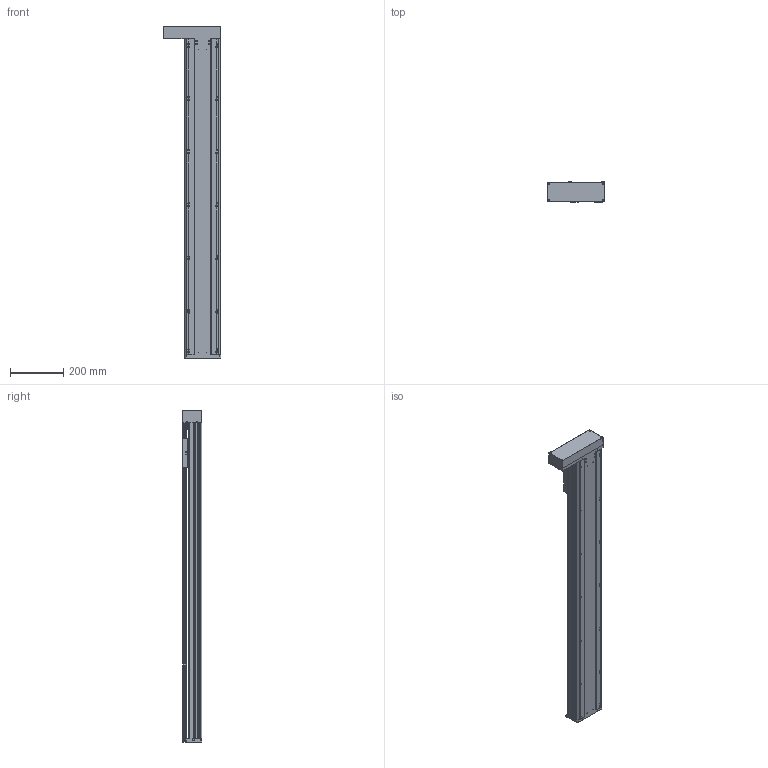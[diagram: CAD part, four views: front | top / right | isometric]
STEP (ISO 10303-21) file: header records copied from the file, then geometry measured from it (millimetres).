
FILE_DESCRIPTION(/* description */ (''),/* implementation_level */ '2;1');
FILE_NAME(/* name */ 'TKA136-FL-1000_asm1.stp',/* time_stamp */ '2016-05-07T13:33:28+08:00',/* author */ (''),/* organization */ (''),/* preprocessor_version */ 'ST-DEVELOPER v15',/* originating_system */ 'SIEMENS PLM Software NX 8.5',/* authorisation */ '');
FILE_SCHEMA (('AUTOMOTIVE_DESIGN { 1 0 10303 214 3 1 1 1 }'));
Length unit declared in the file: millimetre
Products named in the file (3): 100-02; 100-01; TKA136-FL-1000_asm1
Assembly tree (2 placements, depth 2):
  TKA136-FL-1000_asm1
    100-01
    100-02
Bounding box: 216 x 75 x 1250 mm (x, y, z)
Volume: 3716250.1 mm3; surface area: 1473042.5 mm2
Topology: 2 solids, 12 shells, 918 faces, 2636 edges, 1721 vertices
Faces by surface type: cylinder 442, plane 425, cone 51
Full cylindrical faces by diameter (mm): 2.5 x14, 3 x2, 3.3 x13, 4 x4, 4.2 x6, 4.5 x24, 5 x22, 5.5 x26, 6.6 x18, 8 x20, 10 x9, 10.5 x14, 11 x4, 11.6 x1, 12 x9, 15 x3, 16 x5, 17 x1, 24 x5, 26 x1, 28 x1, 46 x1, 50 x1
Entity records: 31248 total; most frequent: CARTESIAN_POINT 8430, DIRECTION 4698, ORIENTED_EDGE 4466, EDGE_CURVE 2233, AXIS2_PLACEMENT_3D 1779, VERTEX_POINT 1592, EDGE_LOOP 1372, LINE 1140
